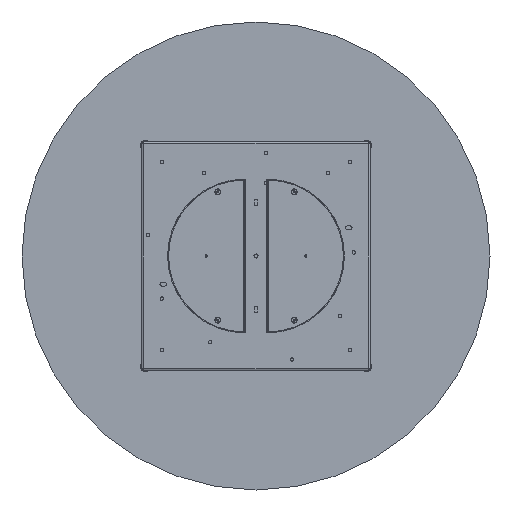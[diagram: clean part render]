
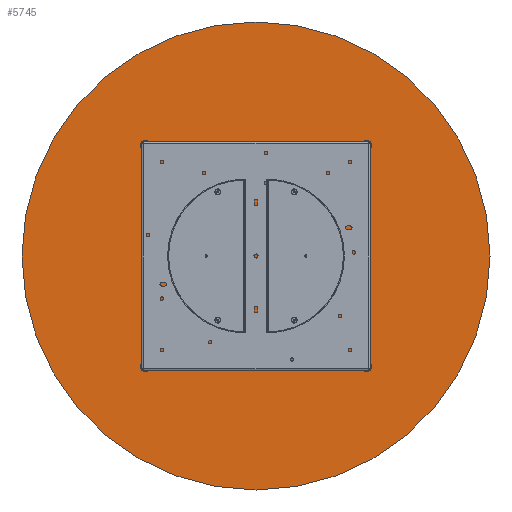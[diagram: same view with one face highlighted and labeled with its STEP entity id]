
A CAD part, front view. The second image highlights one B-rep face of the part: STEP entity #5745.
In plain terms, the highlighted planar face has unit normal (0, -1, 0).
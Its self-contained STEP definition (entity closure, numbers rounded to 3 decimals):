
#1069 = PLANE ( 'NONE',  #6795 ) ;
#1971 = EDGE_CURVE ( 'NONE', #7724, #5640, #11202, .T. ) ;
#2364 = AXIS2_PLACEMENT_3D ( 'NONE', #5789, #13940, #4665 ) ;
#4665 = DIRECTION ( 'NONE',  ( 0., 0., -1. ) ) ;
#4689 = EDGE_CURVE ( 'NONE', #5640, #7724, #9795, .T. ) ;
#4733 = ORIENTED_EDGE ( 'NONE', *, *, #4689, .T. ) ;
#5640 = VERTEX_POINT ( 'NONE', #12290 ) ;
#5723 = DIRECTION ( 'NONE',  ( 0., -1., 0. ) ) ;
#5745 = ADVANCED_FACE ( 'NONE', ( #8958 ), #1069, .T. ) ;
#5789 = CARTESIAN_POINT ( 'NONE',  ( 0., 0., 0. ) ) ;
#5822 = DIRECTION ( 'NONE',  ( 0., 0., -1. ) ) ;
#5907 = CARTESIAN_POINT ( 'NONE',  ( 0., 0., 0. ) ) ;
#6795 = AXIS2_PLACEMENT_3D ( 'NONE', #9109, #5723, #13568 ) ;
#7265 = CARTESIAN_POINT ( 'NONE',  ( 0., 0., -700. ) ) ;
#7724 = VERTEX_POINT ( 'NONE', #7265 ) ;
#8958 = FACE_OUTER_BOUND ( 'NONE', #11984, .T. ) ;
#9109 = CARTESIAN_POINT ( 'NONE',  ( 0., 0., 0. ) ) ;
#9795 = CIRCLE ( 'NONE', #2364, 700. ) ;
#11202 = CIRCLE ( 'NONE', #13855, 700. ) ;
#11248 = ORIENTED_EDGE ( 'NONE', *, *, #1971, .T. ) ;
#11984 = EDGE_LOOP ( 'NONE', ( #11248, #4733 ) ) ;
#12290 = CARTESIAN_POINT ( 'NONE',  ( 0., 0., 700. ) ) ;
#13568 = DIRECTION ( 'NONE',  ( 0., 0., -1. ) ) ;
#13855 = AXIS2_PLACEMENT_3D ( 'NONE', #5907, #13893, #5822 ) ;
#13893 = DIRECTION ( 'NONE',  ( 0., -1., 0. ) ) ;
#13940 = DIRECTION ( 'NONE',  ( 0., -1., 0. ) ) ;
